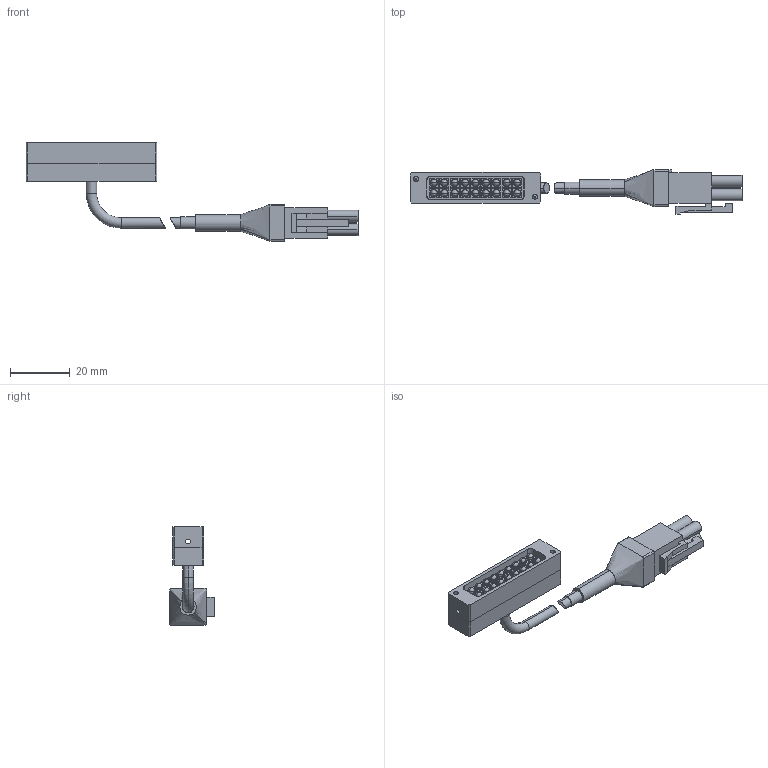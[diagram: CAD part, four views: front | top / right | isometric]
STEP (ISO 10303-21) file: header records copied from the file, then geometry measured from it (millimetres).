
FILE_DESCRIPTION (( 'STEP AP203' ), '1' );
FILE_NAME ('UA40861.STEP', '2022-07-25T06:05:15', ( 'CCS' ), ( 'シーシーエス株式会社' ), 'SwSTEP 2.0', 'SolidWorks 2017', '' );
FILE_SCHEMA (( 'CONFIG_CONTROL_DESIGN' ));
Length unit declared in the file: millimetre
Products named in the file (1): UA40861
Bounding box: 111.6 x 15.05 x 33.2 mm (x, y, z)
Surface area: 6274.7 mm2 (no closed solid volume)
Topology: 0 solids, 65 shells, 372 faces, 1046 edges, 744 vertices
Faces by surface type: plane 198, cylinder 52, cone 44, torus 38, sphere 36, bspline 4
Entity records: 12177 total; most frequent: CARTESIAN_POINT 2525, DIRECTION 2068, ORIENTED_EDGE 1634, EDGE_CURVE 1046, VERTEX_POINT 744, LINE 730, VECTOR 730, AXIS2_PLACEMENT_3D 669
